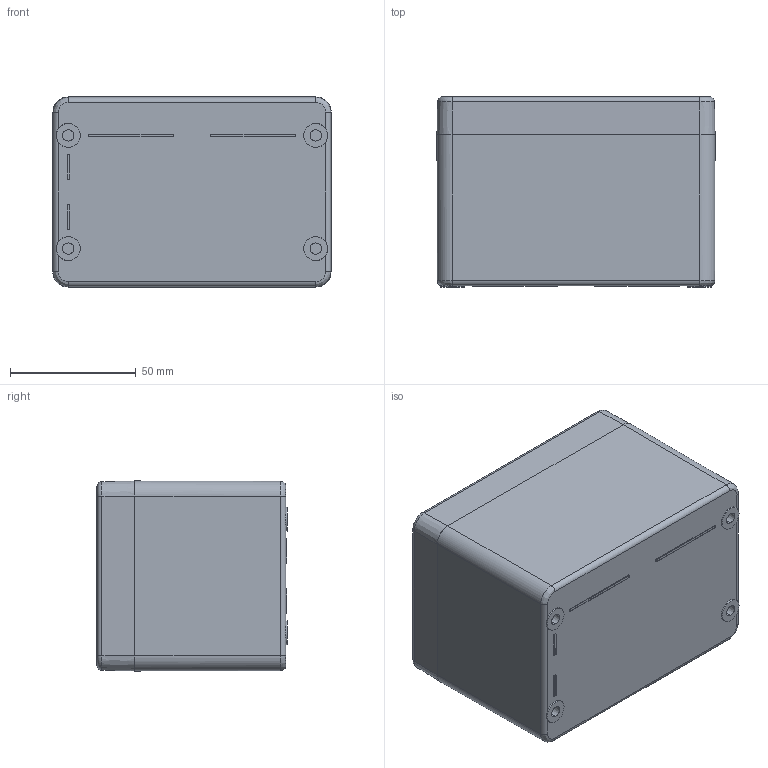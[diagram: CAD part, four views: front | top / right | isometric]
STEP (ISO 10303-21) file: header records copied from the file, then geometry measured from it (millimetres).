
FILE_DESCRIPTION((''),'2;1');
FILE_NAME('4150950050_ASM','2023-06-29T10:19:35',('Stephanie.Hoppe'),(''),'CREO PARAMETRIC BY PTC INC, 2022124','CREO PARAMETRIC BY PTC INC, 2022124','');
FILE_SCHEMA(('AUTOMOTIVE_DESIGN { 1 0 10303 214 1 1 1 1 }'));
Length unit declared in the file: millimetre
Products named in the file (13): 9331053000; EINPRESSMUTTER_M4; EINPRESSMUTTER_M4_AF17; EINPRESSMUTTER_M4_AF16; EINPRESSMUTTER_M4_AF19; EINPRESSMUTTER_M4_AF18; 9331053000_ASM; 9332040000; 9614006100_DICHTUNG; 9614006100_ASM; 9262004000; 9261014000; 4150950050_ASM
Assembly tree (19 placements, depth 3):
  4150950050_ASM
    9331053000_ASM
      9331053000
      EINPRESSMUTTER_M4  x2
      EINPRESSMUTTER_M4_AF17
      EINPRESSMUTTER_M4_AF16
      EINPRESSMUTTER_M4_AF19
      EINPRESSMUTTER_M4_AF18
    9614006100_ASM
      9332040000
      9614006100_DICHTUNG
    9262004000  x4
    9261014000  x4
Bounding box: 110.5 x 75.5 x 75.5 mm (x, y, z)
Volume: 199437.4 mm3; surface area: 100989.4 mm2
Topology: 17 solids, 27 shells, 736 faces, 1943 edges, 1290 vertices
Faces by surface type: plane 296, cone 208, cylinder 172, torus 36, bspline 24
Entity records: 29925 total; most frequent: CARTESIAN_POINT 4268, DIRECTION 3620, ORIENTED_EDGE 2506, PRESENTATION_STYLE_ASSIGNMENT 1727, STYLED_ITEM 1727, CURVE_STYLE 1551, AXIS2_PLACEMENT_3D 1412, EDGE_CURVE 1264
